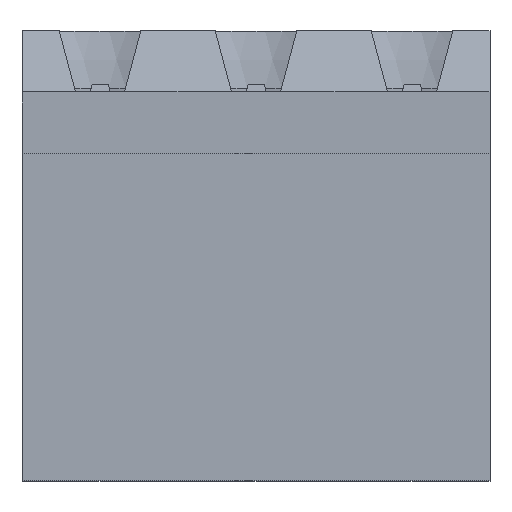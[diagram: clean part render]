
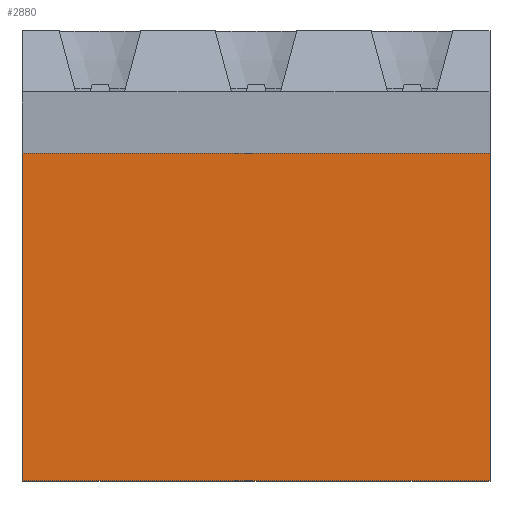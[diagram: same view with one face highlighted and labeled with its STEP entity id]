
A CAD part, top view. The second image highlights one B-rep face of the part: STEP entity #2880.
In plain terms, the highlighted planar face has unit normal (0, 0, 1).
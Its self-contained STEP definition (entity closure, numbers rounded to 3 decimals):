
#300=DIRECTION('',(0.,1.,0.));
#301=VECTOR('',#300,8.);
#302=CARTESIAN_POINT('',(24.245,4.,-0.7));
#303=LINE('',#302,#301);
#420=DIRECTION('',(-1.,0.,0.));
#421=VECTOR('',#420,11.43);
#422=CARTESIAN_POINT('',(24.245,4.,-0.7));
#423=LINE('',#422,#421);
#424=DIRECTION('',(0.,1.,0.));
#425=VECTOR('',#424,8.);
#426=CARTESIAN_POINT('',(12.815,4.,-0.7));
#427=LINE('',#426,#425);
#428=DIRECTION('',(1.,0.,0.));
#429=VECTOR('',#428,11.43);
#430=CARTESIAN_POINT('',(12.815,12.,-0.7));
#431=LINE('',#430,#429);
#2000=CARTESIAN_POINT('',(12.815,12.,-0.7));
#2001=CARTESIAN_POINT('',(24.245,12.,-0.7));
#2002=VERTEX_POINT('',#2000);
#2003=VERTEX_POINT('',#2001);
#2004=CARTESIAN_POINT('',(24.245,4.,-0.7));
#2005=CARTESIAN_POINT('',(12.815,4.,-0.7));
#2006=VERTEX_POINT('',#2004);
#2007=VERTEX_POINT('',#2005);
#2867=CARTESIAN_POINT('',(4.195,12.,-0.7));
#2868=DIRECTION('',(0.,0.,1.));
#2869=DIRECTION('',(0.,-1.,0.));
#2870=AXIS2_PLACEMENT_3D('',#2867,#2868,#2869);
#2871=PLANE('',#2870);
#2873=ORIENTED_EDGE('',*,*,#2872,.T.);
#2875=ORIENTED_EDGE('',*,*,#2874,.T.);
#2876=ORIENTED_EDGE('',*,*,#2858,.T.);
#2877=ORIENTED_EDGE('',*,*,#2732,.F.);
#2878=EDGE_LOOP('',(#2873,#2875,#2876,#2877));
#2879=FACE_OUTER_BOUND('',#2878,.F.);
#2880=ADVANCED_FACE('',(#2879),#2871,.T.);
#2732=EDGE_CURVE('',#2006,#2003,#303,.T.);
#2858=EDGE_CURVE('',#2002,#2003,#431,.T.);
#2872=EDGE_CURVE('',#2006,#2007,#423,.T.);
#2874=EDGE_CURVE('',#2007,#2002,#427,.T.);
